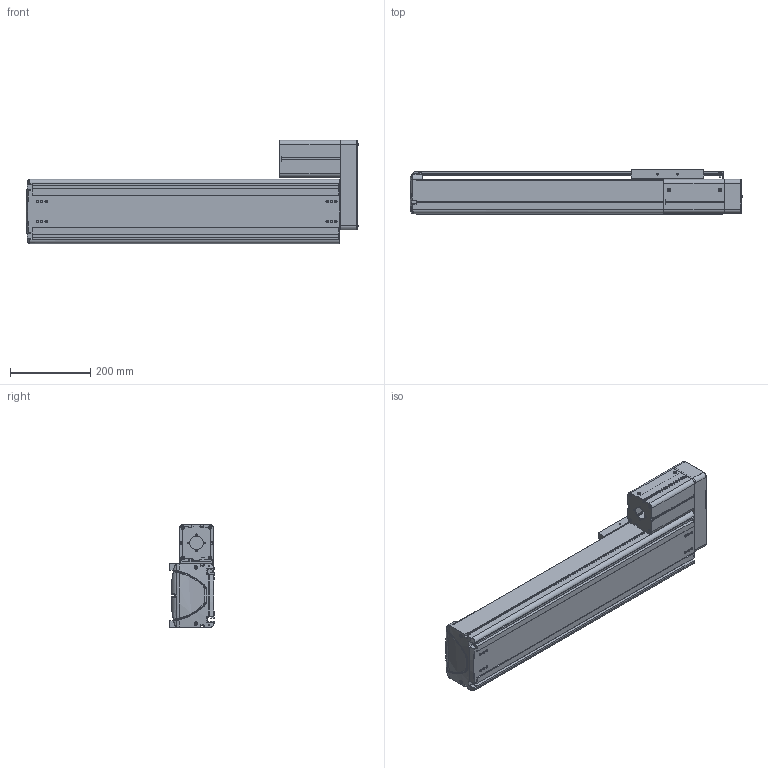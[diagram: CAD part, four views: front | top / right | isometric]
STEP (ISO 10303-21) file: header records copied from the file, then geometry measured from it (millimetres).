
FILE_DESCRIPTION((''),'2;1');
FILE_NAME('BE50F-UR-M_N-50_IGS_PRT','2017-06-18T',(' '),(''),'PRO/ENGINEER BY PARAMETRIC TECHNOLOGY CORPORATION, 2015030','PRO/ENGINEER BY PARAMETRIC TECHNOLOGY CORPORATION, 2015030','');
FILE_SCHEMA(('CONFIG_CONTROL_DESIGN'));
Length unit declared in the file: millimetre
Products named in the file (1): BE50F-UR-M_N-50_IGS_PRT
Bounding box: 825.88 x 110 x 257 mm (x, y, z)
Volume: 4128895.5 mm3; surface area: 1528589.3 mm2
Topology: 2 solids, 115 shells, 2139 faces, 5773 edges, 3761 vertices
Faces by surface type: plane 1000, cylinder 885, cone 115, torus 59, bspline 48, sphere 32
Entity records: 70278 total; most frequent: CARTESIAN_POINT 15814, DIRECTION 11454, ORIENTED_EDGE 11048, EDGE_CURVE 5736, AXIS2_PLACEMENT_3D 4065, VERTEX_POINT 3760, VECTOR 3324, LINE 3324
